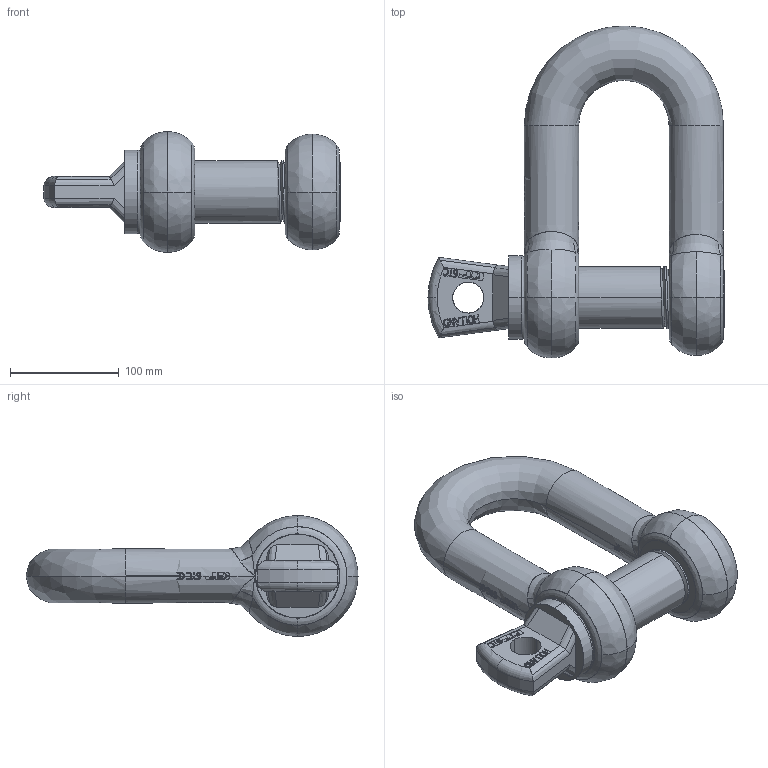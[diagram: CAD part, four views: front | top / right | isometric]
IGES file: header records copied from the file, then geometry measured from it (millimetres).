
Start section: START RECORD GO HERE.
Global section: file name: 35.igs; native system: Solidworks 2009      A Version 5 Release 17 ; preprocessor: Solidworks                 ; author: v.b.; organization: P4; date: 20090807.081624; units: millimetre
Bounding box: 272 x 305 x 111 mm (x, y, z)
Surface area: 198468.1 mm2 (no closed solid volume)
Topology: 0 solids, 0 shells, 689 faces, 4832 edges, 4824 vertices
Faces by surface type: bspline 324, plane 232, revolution 133
